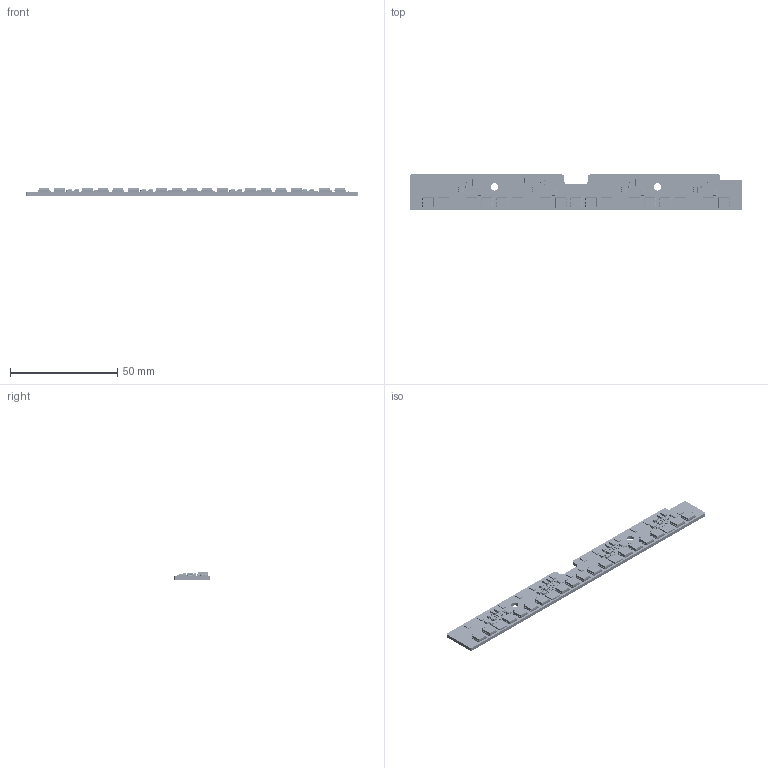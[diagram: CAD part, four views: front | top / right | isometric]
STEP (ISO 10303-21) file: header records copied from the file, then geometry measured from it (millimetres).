
FILE_DESCRIPTION(('Open CASCADE Model'),'2;1');
FILE_NAME('Open CASCADE Shape Model','2024-09-03T18:25:45',('Author'),( 'Open CASCADE'),'Open CASCADE STEP processor 7.5','Open CASCADE 7.5' ,'Unknown');
FILE_SCHEMA(('AUTOMOTIVE_DESIGN { 1 0 10303 214 1 1 1 1 }'));
Length unit declared in the file: millimetre
Products named in the file (154): PCB; Board; Open CASCADE STEP translator 7.5 3.1.1; R49; User Library-RESC1005X04N; R48; NCP15XV103E03RC; R47; R46; R45; R44; R43; R42; Q8; CircuitWorks-SOT-23; Q7; Q6; Q5; D28; User Library-LED_0603_WS; Pocket002; Pad004; Fillet; Pocket001; Pad; D26; D24; D9; R41; R40; R39; R38; R37; R36; R35; R34; R33; R32; Q4; Q3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
Assembly tree (276 placements, depth 5):
  PCB
    Board
      Open CASCADE STEP translator 7.5 3.1.1
    R49
      User Library-RESC1005X04N
    R48
      NCP15XV103E03RC
    R47
      User Library-RESC1005X04N
    R46
      NCP15XV103E03RC
    R45
      User Library-RESC1005X04N
    R44
      NCP15XV103E03RC
    R43
      User Library-RESC1005X04N
    R42
      NCP15XV103E03RC
    Q8
      CircuitWorks-SOT-23
    Q7
      CircuitWorks-SOT-23
    Q6
      CircuitWorks-SOT-23
    Q5
      CircuitWorks-SOT-23
    D28
      User Library-LED_0603_WS
        Pocket002
        Pad004
        Fillet
        Pocket001
        Pad
    D26
      User Library-LED_0603_WS
        Pocket002
        Pad004
        Fillet
        Pocket001
        Pad
    D24
      User Library-LED_0603_WS
        Pocket002
        Pad004
        Fillet
        Pocket001
        Pad
    D9
      User Library-LED_0603_WS
        Pocket002
        Pad004
        Fillet
        Pocket001
        Pad
    R41
      User Library-RESC1005X04N
    R40
      User Library-RESC1005X04N
    R39
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Bounding box: 155 x 16.51 x 3.31 mm (x, y, z)
Volume: 4843.9 mm3; surface area: 9233.1 mm2
Topology: 325 solids, 333 shells, 13743 faces, 36056 edges, 23029 vertices
Faces by surface type: plane 6685, cylinder 3770, bspline 2852, sphere 336, cone 68, revolution 32
Full cylindrical faces by diameter (mm): 3.4 x2
Entity records: 51066 total; most frequent: CARTESIAN_POINT 12423, ORIENTED_EDGE 6675, DIRECTION 5703, EDGE_CURVE 3339, VERTEX_POINT 2159, LINE 2029, VECTOR 2029, AXIS2_PLACEMENT_3D 1833
